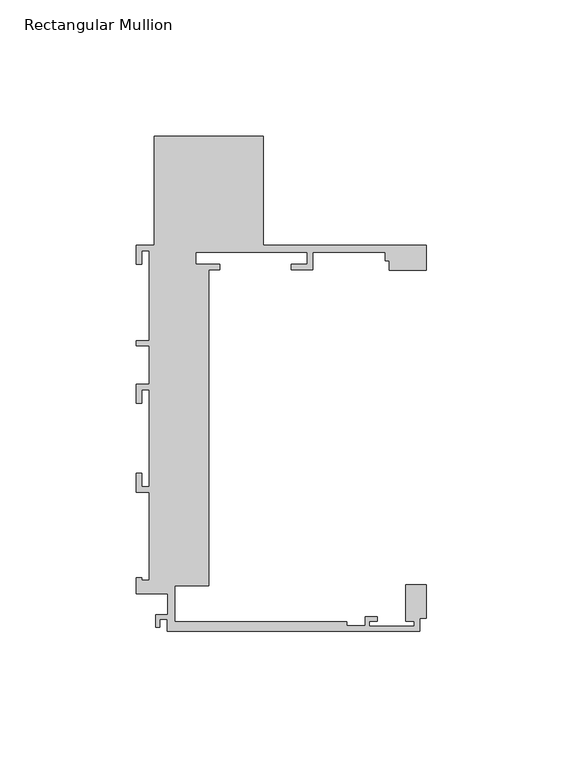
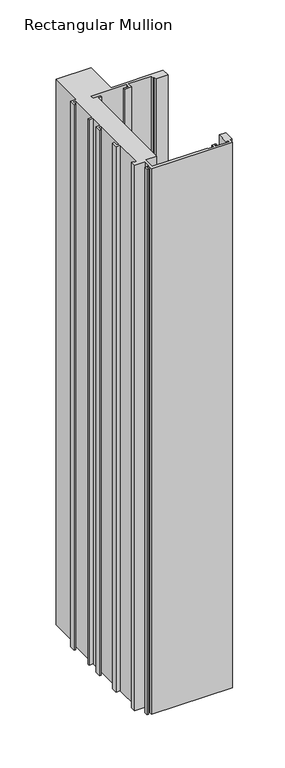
"""IFC4 building model written with IfcOpenShell, lengths in millimetres: member geometry, Rectangular Mullion : Danpal_K12_Middle-Mullion_B1."""

from ifc_helpers import new_model, si_unit, frame, origin, place, context, project, spatial, polyline, outline, extrude, source, transform, mapped, element, save


def rectangular_mullion_fd8bee49(model_context):
    return source(origin(), model_context, "Body", "SweptSolid", [
        extrude(outline(polyline([(-24.173135, 117.8676658), (-24.173135, 1.9446289), (-36.6885087, 1.9446289), (-36.6885087, -11.3051512), (26.3590216, -11.3051512), (26.3590216, -12.8051513), (33.1059015, -12.8051513), (33.1059015, -9.5051512), (37.6059015, -9.5051512), (37.6059015, -11.0051513), (34.6059015, -11.0051513), (34.6059015, -13.0051512), (51.1059014, -13.0051512), (51.1059014, -11.0051513), (48.1059014, -11.0051513), (48.1059014, 2.316674), (55.6176464, 2.316674), (55.6176464, -10.065304), (53.1059014, -10.065304), (53.1059014, -14.8051514), (-39.3921425, -14.8051514), (-39.3921425, -10.3006425), (-42.1422367, -10.3006425), (-42.1422367, -13.3051514), (-43.6422367, -13.3051514), (-43.6422367, -8.8006425), (-39.1885087, -8.8006425), (-39.1885087, -1.0551514), (-50.7940962, -1.0551514), (-50.7940962, 4.9448486), (-48.7940962, 4.9448486), (-48.7940962, 3.9448486), (-45.9940962, 3.9448486), (-45.9940962, 36.2443486), (-50.7940962, 36.2443486), (-50.7940962, 43.2443486), (-48.7940962, 43.2443486), (-48.7940962, 38.2443486), (-45.9940962, 38.2443486), (-45.9940962, 73.8676657), (-48.7940962, 73.8676657), (-48.7940962, 68.8676657), (-50.7940962, 68.8676657), (-50.7940962, 75.867683), (-45.9940962, 75.867683), (-45.9940962, 89.8676485), (-50.7940962, 89.8676485), (-50.7940962, 91.8676485), (-45.9940962, 91.8676485), (-45.9940962, 124.7676657), (-48.7940962, 124.7676657), (-48.7940962, 119.7676657), (-50.7940962, 119.7676657), (-50.7940962, 126.7676657), (-44.1940962, 126.7676657), (-44.1940962, 166.7676657), (-4.1940962, 166.7676657), (-4.1940962, 126.7676657), (55.6176464, 126.7676657), (55.6176464, 117.6986749), (42.0287205, 117.6986749), (42.0287205, 121.0676175), (40.4959313, 121.0676175), (40.4959313, 124.2676658), (13.9409313, 124.2676658), (13.9409313, 117.8676658), (5.9409313, 117.8676658), (5.9409313, 119.8676658), (11.9409313, 119.8676658), (11.9409313, 124.2676658), (-28.9590961, 124.2676658), (-28.9590961, 119.8676658), (-20.1940961, 119.8676658), (-20.1940961, 117.8676658), (-24.173135, 117.8676658)])), frame((0.0, 0.0, -660.6176464), z_axis=(0.0, 0.0, 1.0), x_axis=(1.0, 0.0, 0.0)), (0.0, 0.0, 1.0), 660.6176464),
    ])


if __name__ == "__main__":
    model = new_model("IFC4")
    model_context = context("Model", 3, world=origin())
    ifc_project = project(units=[si_unit("LENGTHUNIT", "METRE", prefix="MILLI")], contexts=[model_context])
    site = spatial("IfcSite", under=ifc_project)
    building = spatial("IfcBuilding", under=site)
    placement = place(None, origin())
    rectangular_mullion_shape = rectangular_mullion_fd8bee49(model_context)
    element("IfcMember", 1, ObjectType="Rectangular Mullion : Danpal_K12_Middle-Mullion_B1", at=placement, inside=building, context=model_context, shape_type="MappedRepresentation", body=[
        mapped(rectangular_mullion_shape, transform((0.0, 0.0, 0.0), x_axis=(1.0, 0.0, 0.0), y_axis=(0.0, 1.0, 0.0), z_axis=(0.0, 0.0, 1.0))),
    ])
    save(model, "model.ifc")
